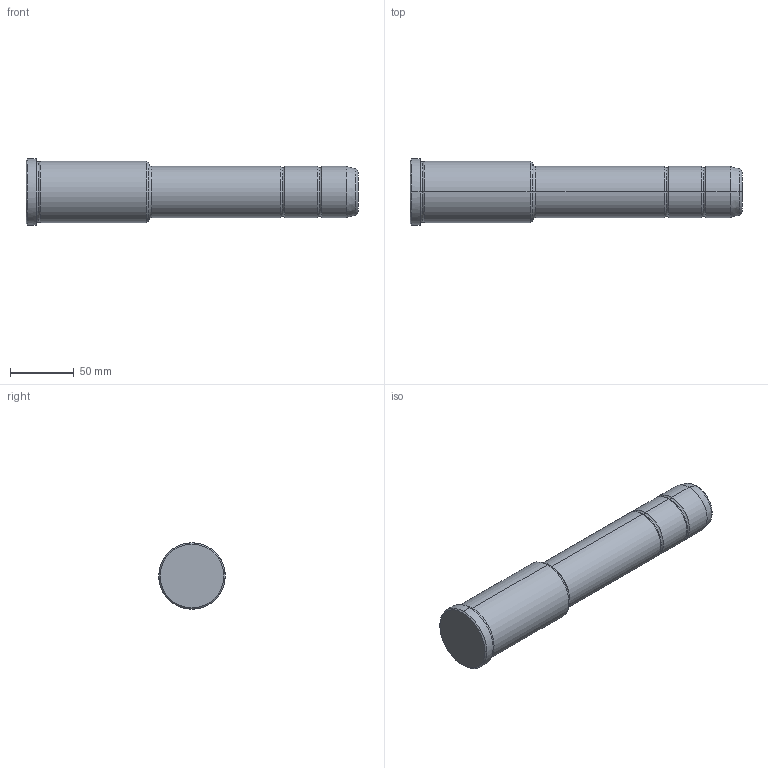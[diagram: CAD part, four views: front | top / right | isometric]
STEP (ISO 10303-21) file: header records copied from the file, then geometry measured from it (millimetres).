
FILE_DESCRIPTION(('CATIA V5 STEP Exchange'),'2;1');
FILE_NAME('C:\Users\Utente\Desktop\IO LAVORO\3D X SITO CF\X SITO\PLASTICA\351\351-40X96X260.stp','2021-10-07T14:04:38+00:00',('none'),('none'),'CATIA Version 5 Release 20 GA (IN-10)','CATIA V5 STEP AP203','none');
FILE_SCHEMA(('CONFIG_CONTROL_DESIGN'));
Length unit declared in the file: millimetre
Products named in the file (1): 351-40X96X260
Bounding box: 260 x 52 x 52 mm (x, y, z)
Volume: 380135.4 mm3; surface area: 38881.2 mm2
Topology: 1 solids, 1 shells, 36 faces, 102 edges, 70 vertices
Faces by surface type: torus 16, cylinder 10, cone 6, plane 4
Entity records: 1292 total; most frequent: CARTESIAN_POINT 321, ORIENTED_EDGE 204, DIRECTION 166, AXIS2_PLACEMENT_3D 115, EDGE_CURVE 102, CIRCLE 78, VERTEX_POINT 70, EDGE_LOOP 38
